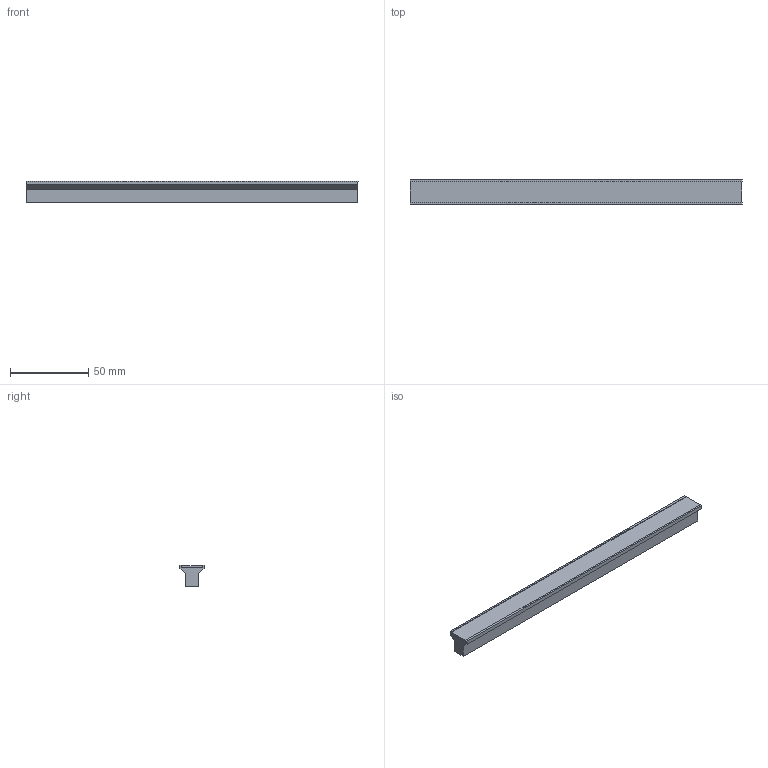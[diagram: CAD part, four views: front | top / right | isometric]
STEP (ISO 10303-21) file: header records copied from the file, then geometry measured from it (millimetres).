
FILE_DESCRIPTION(('STEP AP214'),'1');
FILE_NAME('20808068.stp','2019-03-12T18:00:35',('TraceParts'),('TraceParts S.A.'),'Spatial InterOp 3D',' ',' ');
FILE_SCHEMA(('automotive_design'));
Length unit declared in the file: millimetre
Products named in the file (2): 20808068_1; 20808068_2
Bounding box: 211.92 x 15.4 x 14 mm (x, y, z)
Volume: 17382.1 mm3; surface area: 24941.1 mm2
Topology: 2 solids, 2 shells, 328 faces, 847 edges, 565 vertices
Faces by surface type: plane 238, cone 78, cylinder 10, sphere 2
Entity records: 12779 total; most frequent: CARTESIAN_POINT 1790, ORIENTED_EDGE 1694, DIRECTION 1659, EDGE_CURVE 847, LINE 663, VECTOR 663, VERTEX_POINT 565, AXIS2_PLACEMENT_3D 498
